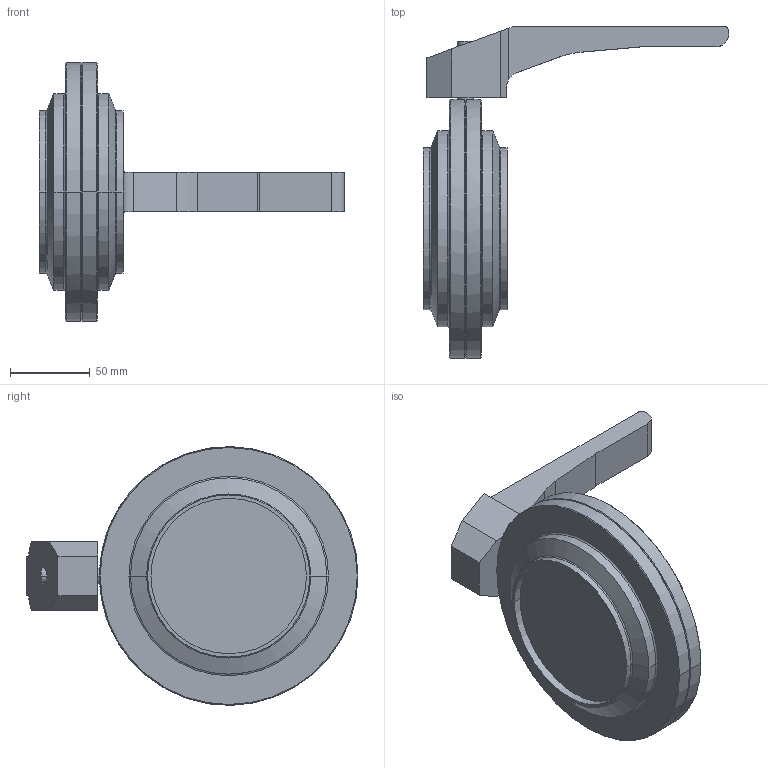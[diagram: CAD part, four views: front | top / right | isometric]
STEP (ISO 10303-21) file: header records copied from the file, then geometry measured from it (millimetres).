
FILE_DESCRIPTION(('OneSpaceDesigner STEP Export'),'2;1');
FILE_NAME('SV1-4zoll-H-12S.stp','2007-04-20T11:58:21',(''),(''),'OneSpace Designer STEP processor for AP214 (Solid Model)','OneSpace Modeling 15.00 06-Feb-2007 (C) CoCreate Software GmbH','');
FILE_SCHEMA(('AUTOMOTIVE_DESIGN { 1 0 10303 214 1 1 1 1 }'));
Length unit declared in the file: millimetre
Products named in the file (3): Handhebel-SV-40-100; Gehäusehälfte-SV1-4zoll-1S; SV1-4zoll-H-12S-vereint
Assembly tree (2 placements, depth 2):
  SV1-4zoll-H-12S-vereint
    Gehäusehälfte-SV1-4zoll-1S
    Handhebel-SV-40-100
Bounding box: 191.2 x 208 x 162 mm (x, y, z)
Volume: 798029.4 mm3; surface area: 84262.9 mm2
Topology: 2 solids, 2 shells, 70 faces, 157 edges, 96 vertices
Faces by surface type: plane 25, cylinder 25, cone 12, torus 8
Entity records: 2208 total; most frequent: CARTESIAN_POINT 706, ORIENTED_EDGE 314, DIRECTION 275, EDGE_CURVE 157, AXIS2_PLACEMENT_3D 99, VERTEX_POINT 96, VECTOR 77, LINE 77
